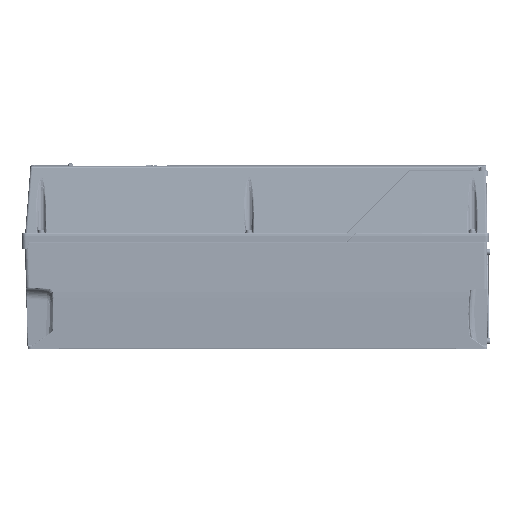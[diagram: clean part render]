
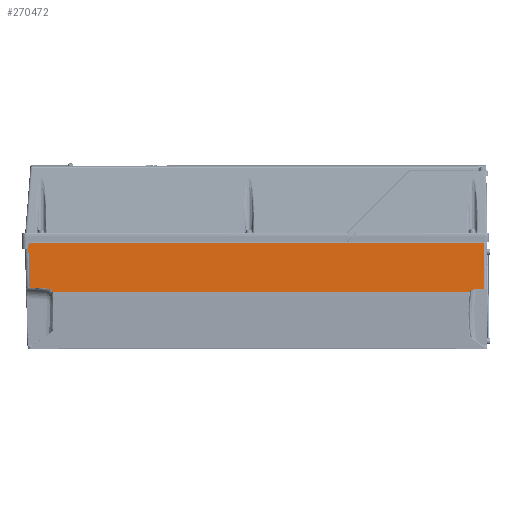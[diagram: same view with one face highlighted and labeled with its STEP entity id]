
A CAD part, left-side view. The second image highlights one B-rep face of the part: STEP entity #270472.
In plain terms, the highlighted planar face has unit normal (-1, 0, 0.024).
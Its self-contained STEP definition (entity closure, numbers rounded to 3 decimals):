
#15546=CARTESIAN_POINT('',(-119.098,318.091,
-2.488));
#69672=CARTESIAN_POINT('',(-120.686,-298.655,
-67.489));
#69679=CARTESIAN_POINT('',(-120.75,-297.88,
-70.105));
#69986=DIRECTION('',(0.001,0.998,0.061));
#69987=VECTOR('',#69986,25.514);
#69988=CARTESIAN_POINT('',(-120.645,291.007,
-65.824));
#69989=LINE('',#69988,#69987);
#69990=DIRECTION('',(0.024,0.026,0.999));
#69991=VECTOR('',#69990,61.818);
#69992=CARTESIAN_POINT('',(-120.607,316.473,
-64.266));
#69993=LINE('',#69992,#69991);
#69994=DIRECTION('',(0.,1.,0.));
#69995=VECTOR('',#69994,636.291);
#69996=CARTESIAN_POINT('',(-119.098,-318.2,
-2.488));
#69997=LINE('',#69996,#69995);
#69998=DIRECTION('',(-0.024,0.,-1.));
#69999=VECTOR('',#69998,63.825);
#70000=CARTESIAN_POINT('',(-119.098,-318.2,
-2.488));
#70001=LINE('',#70000,#69999);
#70002=CARTESIAN_POINT('',(-120.75,-297.88,
-70.105));
#70003=CARTESIAN_POINT('',(-120.75,-297.9,
-70.096));
#70004=CARTESIAN_POINT('',(-120.749,-297.936,
-70.069));
#70005=CARTESIAN_POINT('',(-120.747,-297.977,
-69.985));
#70006=CARTESIAN_POINT('',(-120.745,-298.011,
-69.906));
#70007=CARTESIAN_POINT('',(-120.743,-298.044,
-69.818));
#70008=CARTESIAN_POINT('',(-120.741,-298.077,
-69.725));
#70009=CARTESIAN_POINT('',(-120.738,-298.11,
-69.622));
#70010=CARTESIAN_POINT('',(-120.735,-298.145,
-69.508));
#70011=CARTESIAN_POINT('',(-120.732,-298.182,
-69.381));
#70012=CARTESIAN_POINT('',(-120.729,-298.221,
-69.242));
#70013=CARTESIAN_POINT('',(-120.725,-298.262,
-69.091));
#70014=CARTESIAN_POINT('',(-120.721,-298.304,
-68.931));
#70015=CARTESIAN_POINT('',(-120.717,-298.348,
-68.762));
#70016=CARTESIAN_POINT('',(-120.713,-298.392,
-68.587));
#70017=CARTESIAN_POINT('',(-120.708,-298.436,
-68.407));
#70018=CARTESIAN_POINT('',(-120.704,-298.481,
-68.223));
#70019=CARTESIAN_POINT('',(-120.699,-298.526,
-68.038));
#70020=CARTESIAN_POINT('',(-120.695,-298.57,
-67.853));
#70021=CARTESIAN_POINT('',(-120.69,-298.613,
-67.669));
#70022=CARTESIAN_POINT('',(-120.688,-298.641,
-67.549));
#70023=CARTESIAN_POINT('',(-120.686,-298.655,
-67.489));
#70025=DIRECTION('',(0.,1.,0.));
#70026=VECTOR('',#70025,582.019);
#70027=CARTESIAN_POINT('',(-120.75,-297.88,
-70.105));
#70028=LINE('',#70027,#70026);
#70029=CARTESIAN_POINT('',(-120.75,284.139,
-70.107));
#70030=CARTESIAN_POINT('',(-120.735,284.492,
-69.488));
#70031=CARTESIAN_POINT('',(-120.708,285.316,
-68.372));
#70032=CARTESIAN_POINT('',(-120.675,286.976,
-67.022));
#70033=CARTESIAN_POINT('',(-120.653,288.916,
-66.128));
#70034=CARTESIAN_POINT('',(-120.646,290.29,
-65.868));
#70035=CARTESIAN_POINT('',(-120.645,291.007,
-65.824));
#70051=DIRECTION('',(0.001,-0.998,0.061));
#70052=VECTOR('',#70051,19.582);
#70053=CARTESIAN_POINT('',(-120.686,-298.655,
-67.489));
#70054=LINE('',#70053,#70052);
#70059=CARTESIAN_POINT('',(-120.657,-318.2,-66.294));
#93193=VERTEX_POINT('',#15546);
#93195=CARTESIAN_POINT('',(-119.098,-318.2,
-2.488));
#93196=VERTEX_POINT('',#93195);
#93782=VERTEX_POINT('',#69679);
#93882=CARTESIAN_POINT('',(-120.645,291.007,
-65.824));
#93883=CARTESIAN_POINT('',(-120.607,316.473,
-64.266));
#93884=VERTEX_POINT('',#93882);
#93885=VERTEX_POINT('',#93883);
#93937=VERTEX_POINT('',#69672);
#98866=VERTEX_POINT('',#70059);
#98874=VERTEX_POINT('',#70029);
#270455=CARTESIAN_POINT('',(-120.75,-323.,-70.105));
#270456=DIRECTION('',(-1.,0.,0.024));
#270457=DIRECTION('',(0.024,0.,1.));
#270458=AXIS2_PLACEMENT_3D('',#270455,#270456,#270457);
#270459=PLANE('',#270458);
#270460=ORIENTED_EDGE('',*,*,#135631,.T.);
#270461=ORIENTED_EDGE('',*,*,#135719,.T.);
#270462=ORIENTED_EDGE('',*,*,#135781,.F.);
#270464=ORIENTED_EDGE('',*,*,#270463,.T.);
#270466=ORIENTED_EDGE('',*,*,#270465,.F.);
#270467=ORIENTED_EDGE('',*,*,#269525,.F.);
#270468=ORIENTED_EDGE('',*,*,#269543,.T.);
#270469=ORIENTED_EDGE('',*,*,#270447,.T.);
#270470=EDGE_LOOP('',(#270460,#270461,#270462,#270464,#270466,#270467,#270468,
#270469));
#270471=FACE_OUTER_BOUND('',#270470,.F.);
#70024=B_SPLINE_CURVE_WITH_KNOTS('',3,(#70002,#70003,#70004,#70005,#70006,
#70007,#70008,#70009,#70010,#70011,#70012,#70013,#70014,#70015,#70016,#70017,
#70018,#70019,#70020,#70021,#70022,#70023),.UNSPECIFIED.,.F.,.F.,(4,1,1,1,1,1,1,
1,1,1,1,1,1,1,1,1,1,1,1,4),(0.,0.053,0.105,
0.158,0.211,0.263,0.316,
0.368,0.421,0.474,0.526,
0.579,0.632,0.684,0.737,
0.789,0.842,0.895,0.947,1.),
.UNSPECIFIED.);
#70036=B_SPLINE_CURVE_WITH_KNOTS('',3,(#70029,#70030,#70031,#70032,#70033,
#70034,#70035),.UNSPECIFIED.,.F.,.F.,(4,1,1,1,4),(0.,0.25,0.5,0.75,
1.),.UNSPECIFIED.);
#135631=EDGE_CURVE('',#93884,#93885,#69989,.T.);
#135719=EDGE_CURVE('',#93885,#93193,#69993,.T.);
#135781=EDGE_CURVE('',#93196,#93193,#69997,.T.);
#269525=EDGE_CURVE('',#93782,#93937,#70024,.T.);
#269543=EDGE_CURVE('',#93782,#98874,#70028,.T.);
#270447=EDGE_CURVE('',#98874,#93884,#70036,.T.);
#270463=EDGE_CURVE('',#93196,#98866,#70001,.T.);
#270465=EDGE_CURVE('',#93937,#98866,#70054,.T.);
#270472=ADVANCED_FACE('',(#270471),#270459,.T.);
